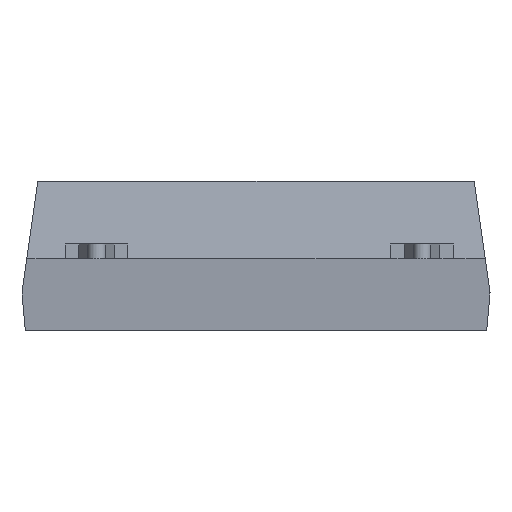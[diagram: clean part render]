
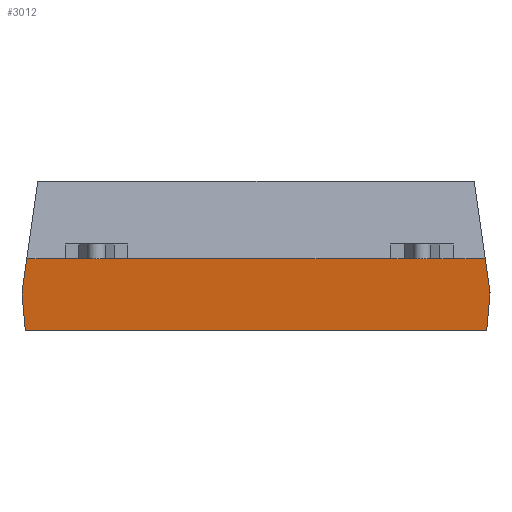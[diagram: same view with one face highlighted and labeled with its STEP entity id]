
A CAD part, front view. The second image highlights one B-rep face of the part: STEP entity #3012.
In plain terms, the highlighted planar face has unit normal (0, -0.996, -0.087).
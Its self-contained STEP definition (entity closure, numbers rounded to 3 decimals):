
#57 = ORIENTED_EDGE ( 'NONE', *, *, #2994, .T. ) ;
#2704 = VERTEX_POINT ( 'NONE', #7955 ) ;
#2708 = EDGE_CURVE ( 'NONE', #2710, #2704, #7954, .T. ) ;
#2710 = VERTEX_POINT ( 'NONE', #8009 ) ;
#2724 = VERTEX_POINT ( 'NONE', #7987 ) ;
#2735 = VERTEX_POINT ( 'NONE', #8034 ) ;
#2737 = VERTEX_POINT ( 'NONE', #8033 ) ;
#2741 = VERTEX_POINT ( 'NONE', #8024 ) ;
#2757 = VERTEX_POINT ( 'NONE', #8070 ) ;
#2762 = EDGE_CURVE ( 'NONE', #2724, #2757, #8063, .T. ) ;
#2770 = EDGE_CURVE ( 'NONE', #2737, #2735, #8048, .T. ) ;
#2847 = EDGE_CURVE ( 'NONE', #2849, #2741, #8186, .T. ) ;
#2849 = VERTEX_POINT ( 'NONE', #8182 ) ;
#2994 = EDGE_CURVE ( 'NONE', #2704, #2737, #8401, .T. ) ;
#2995 = ORIENTED_EDGE ( 'NONE', *, *, #2770, .T. ) ;
#2996 = ORIENTED_EDGE ( 'NONE', *, *, #2997, .T. ) ;
#2997 = EDGE_CURVE ( 'NONE', #2735, #2724, #8457, .T. ) ;
#2998 = ORIENTED_EDGE ( 'NONE', *, *, #2762, .T. ) ;
#2999 = ORIENTED_EDGE ( 'NONE', *, *, #3000, .F. ) ;
#3000 = EDGE_CURVE ( 'NONE', #3001, #2757, #8453, .T. ) ;
#3001 = VERTEX_POINT ( 'NONE', #8449 ) ;
#3002 = ORIENTED_EDGE ( 'NONE', *, *, #3003, .F. ) ;
#3003 = EDGE_CURVE ( 'NONE', #2849, #3001, #8448, .T. ) ;
#3004 = ORIENTED_EDGE ( 'NONE', *, *, #2847, .T. ) ;
#3012 = ADVANCED_FACE ( 'NONE', ( #8430 ), #8429, .F. ) ;
#3013 = EDGE_LOOP ( 'NONE', ( #3014, #3017, #57, #2995, #2996, #2998, #2999, #3002, #3004, #3063 ) ) ;
#3014 = ORIENTED_EDGE ( 'NONE', *, *, #3015, .F. ) ;
#3015 = EDGE_CURVE ( 'NONE', #2710, #3016, #8427, .T. ) ;
#3016 = VERTEX_POINT ( 'NONE', #8483 ) ;
#3017 = ORIENTED_EDGE ( 'NONE', *, *, #2708, .T. ) ;
#3063 = ORIENTED_EDGE ( 'NONE', *, *, #3064, .F. ) ;
#3064 = EDGE_CURVE ( 'NONE', #3016, #2741, #8550, .T. ) ;
#7951 = DIRECTION ( 'NONE',  ( -1., 0., 0. ) ) ;
#7952 = VECTOR ( 'NONE', #7951, 1000. ) ;
#7953 = CARTESIAN_POINT ( 'NONE',  ( 30., -15.04, 2.413 ) ) ;
#7954 = LINE ( 'NONE', #7953, #7952 ) ;
#7955 = CARTESIAN_POINT ( 'NONE',  ( 6.57, -15.04, 2.413 ) ) ;
#7987 = CARTESIAN_POINT ( 'NONE',  ( -6.349, -15.04, 2.413 ) ) ;
#8009 = CARTESIAN_POINT ( 'NONE',  ( 7.689, -15.04, 2.413 ) ) ;
#8024 = CARTESIAN_POINT ( 'NONE',  ( 7.739, -14.829, 0. ) ) ;
#8033 = CARTESIAN_POINT ( 'NONE',  ( 4.571, -15.04, 2.413 ) ) ;
#8034 = CARTESIAN_POINT ( 'NONE',  ( -4.35, -15.04, 2.413 ) ) ;
#8045 = DIRECTION ( 'NONE',  ( -1., 0., 0. ) ) ;
#8046 = VECTOR ( 'NONE', #8045, 1000. ) ;
#8047 = CARTESIAN_POINT ( 'NONE',  ( 30., -15.04, 2.413 ) ) ;
#8048 = LINE ( 'NONE', #8047, #8046 ) ;
#8060 = DIRECTION ( 'NONE',  ( -1., 0., 0. ) ) ;
#8061 = VECTOR ( 'NONE', #8060, 1000. ) ;
#8062 = CARTESIAN_POINT ( 'NONE',  ( 30., -15.04, 2.413 ) ) ;
#8063 = LINE ( 'NONE', #8062, #8061 ) ;
#8070 = CARTESIAN_POINT ( 'NONE',  ( -7.689, -15.04, 2.413 ) ) ;
#8182 = CARTESIAN_POINT ( 'NONE',  ( -7.739, -14.829, 0. ) ) ;
#8183 = DIRECTION ( 'NONE',  ( 1., 0., 0. ) ) ;
#8184 = VECTOR ( 'NONE', #8183, 1000. ) ;
#8185 = CARTESIAN_POINT ( 'NONE',  ( -7.85, -14.829, 0. ) ) ;
#8186 = LINE ( 'NONE', #8185, #8184 ) ;
#8395 = DIRECTION ( 'NONE',  ( -1., 0., 0. ) ) ;
#8396 = VECTOR ( 'NONE', #8395, 1000. ) ;
#8397 = CARTESIAN_POINT ( 'NONE',  ( 30., -15.04, 2.413 ) ) ;
#8401 = LINE ( 'NONE', #8397, #8396 ) ;
#8425 = DIRECTION ( 'NONE',  ( 0., 0.996, 0.087 ) ) ;
#8426 = AXIS2_PLACEMENT_3D ( 'NONE', #8428, #8425, #8487 ) ;
#8427 = LINE ( 'NONE', #8486, #8485 ) ;
#8428 = CARTESIAN_POINT ( 'NONE',  ( 30., -15.04, 2.413 ) ) ;
#8429 = PLANE ( 'NONE',  #8426 ) ;
#8430 = FACE_OUTER_BOUND ( 'NONE', #3013, .T. ) ;
#8445 = DIRECTION ( 'NONE',  ( -0.087, -0.087, 0.992 ) ) ;
#8446 = VECTOR ( 'NONE', #8445, 1000. ) ;
#8447 = CARTESIAN_POINT ( 'NONE',  ( -7.665, -14.755, -0.849 ) ) ;
#8448 = LINE ( 'NONE', #8447, #8446 ) ;
#8449 = CARTESIAN_POINT ( 'NONE',  ( -7.85, -14.94, 1.27 ) ) ;
#8450 = DIRECTION ( 'NONE',  ( 0.139, -0.086, 0.987 ) ) ;
#8451 = VECTOR ( 'NONE', #8450, 1000. ) ;
#8452 = CARTESIAN_POINT ( 'NONE',  ( -6.962, -15.491, 7.579 ) ) ;
#8453 = LINE ( 'NONE', #8452, #8451 ) ;
#8454 = DIRECTION ( 'NONE',  ( -1., 0., 0. ) ) ;
#8455 = VECTOR ( 'NONE', #8454, 1000. ) ;
#8456 = CARTESIAN_POINT ( 'NONE',  ( 30., -15.04, 2.413 ) ) ;
#8457 = LINE ( 'NONE', #8456, #8455 ) ;
#8483 = CARTESIAN_POINT ( 'NONE',  ( 7.85, -14.94, 1.27 ) ) ;
#8484 = DIRECTION ( 'NONE',  ( 0.139, 0.086, -0.987 ) ) ;
#8485 = VECTOR ( 'NONE', #8484, 1000. ) ;
#8486 = CARTESIAN_POINT ( 'NONE',  ( 8.12, -14.773, -0.645 ) ) ;
#8487 = DIRECTION ( 'NONE',  ( 0., -0.087, 0.996 ) ) ;
#8547 = DIRECTION ( 'NONE',  ( -0.087, 0.087, -0.992 ) ) ;
#8548 = VECTOR ( 'NONE', #8547, 1000. ) ;
#8549 = CARTESIAN_POINT ( 'NONE',  ( 8.115, -15.205, 4.308 ) ) ;
#8550 = LINE ( 'NONE', #8549, #8548 ) ;
